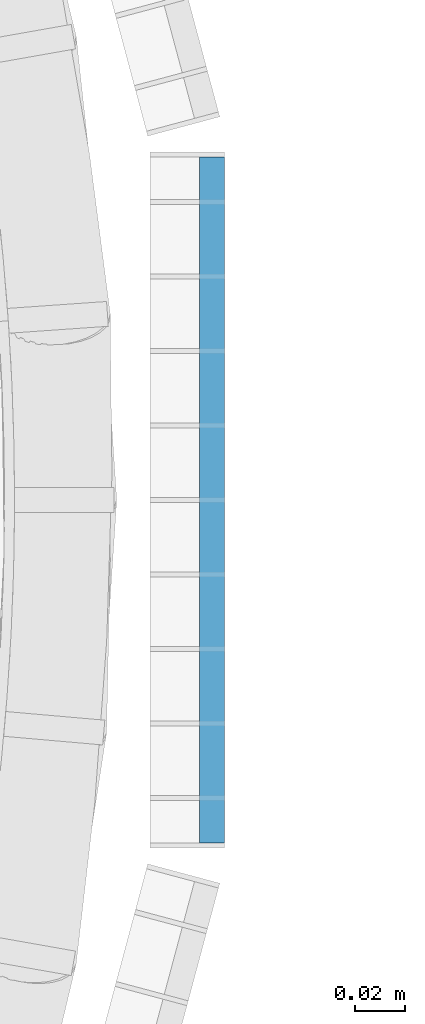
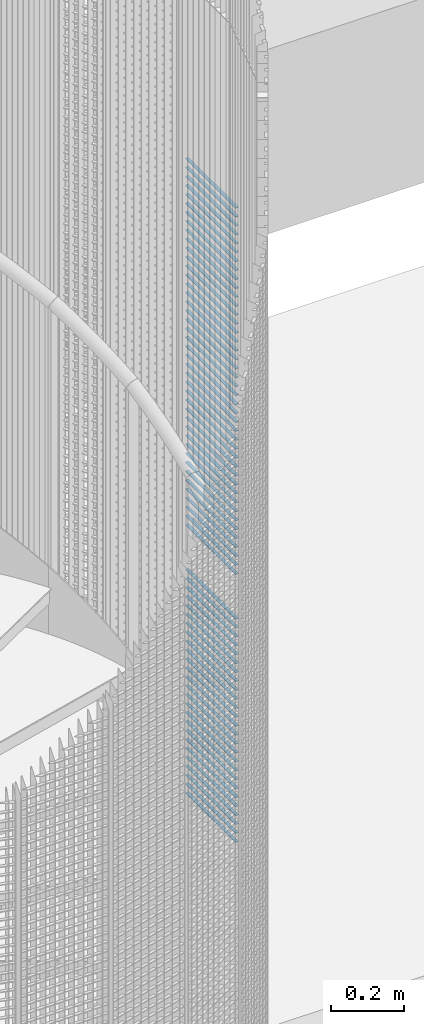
# One storey, part 278 of 1148: 68 beams, 1 element without a shape of its own.
"""IFC2X3 building model written with IfcOpenShell, lengths in millimetres."""

from ifc_helpers import new_model, si_unit, frame, origin_with_axes, origin_2d_with_axis, place, context, subcontext, project, spatial, rectangle, extrude, material, type_object, element, aggregate, save


model = new_model("IFC2X3")

# Units and contexts
model_context = context("Model", 3, precision=1e-05, world=origin_with_axes())
body_context = subcontext(model_context, "Body", "Model", "MODEL_VIEW")
ifc_project = project(units=[si_unit("LENGTHUNIT", "METRE", prefix="MILLI"), si_unit("AREAUNIT", "SQUARE_METRE"), si_unit("VOLUMEUNIT", "CUBIC_METRE"), si_unit("MASSUNIT", "GRAM", prefix="KILO"), si_unit("TIMEUNIT", "SECOND"), si_unit("PLANEANGLEUNIT", "RADIAN"), si_unit("SOLIDANGLEUNIT", "STERADIAN"), si_unit("THERMODYNAMICTEMPERATUREUNIT", "DEGREE_CELSIUS"), si_unit("LUMINOUSINTENSITYUNIT", "LUMEN")], contexts=[model_context])

# Site, building, storey
site_placement = place(None, origin_with_axes())
site = spatial("IfcSite", under=ifc_project, at=site_placement, Name="Undefined", CompositionType="ELEMENT")
building_placement = place(site_placement, origin_with_axes())
building = spatial("IfcBuilding", under=site, at=building_placement, Name="Undefined", CompositionType="ELEMENT")
storey_placement = place(building_placement, origin_with_axes())
storey = spatial("IfcBuildingStorey", under=building, at=storey_placement, Name="Undefined", CompositionType="ELEMENT", Elevation=0.0)

# Assembly, beams
assembly_placement = place(storey_placement, origin_with_axes())
assembly = element("IfcElementAssembly", 1, at=assembly_placement, inside=storey, Name="BORDURE", AssemblyPlace="NOTDEFINED", PredefinedType="NOTDEFINED")
ifc_material = material(Name="STEEL/S235JR")
beam_type = type_object("IfcBeamType", Name="PL2*10", PredefinedType="NOTDEFINED")
beam_1_placement = place(assembly_placement, frame((1113.47999999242, -137.996003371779, 11370.0), z_axis=(1.0, 0.0, 0.0), x_axis=(0.0, 1.0, 0.0)))
beam_1 = element("IfcBeam", 2, at=beam_1_placement, type_object=beam_type, material=ifc_material, Name="ENTRETOISE", context=body_context, shape_type="SweptSolid", body=[
    extrude(rectangle(XDim=2.0, YDim=10.0, at=origin_2d_with_axis()), frame((275.999999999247, 9.09494701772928e-13, 1.53210777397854e-14), z_axis=(-1.0, 0.0, 0.0), x_axis=(0.0, -1.0, 0.0)), (0.0, 0.0, 1.0), 276.0),
])
beam_2_placement = place(assembly_placement, frame((1113.47999999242, -137.996003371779, 11340.0), z_axis=(1.0, 0.0, 0.0), x_axis=(0.0, 1.0, 0.0)))
beam_2 = element("IfcBeam", 3, at=beam_2_placement, type_object=beam_type, material=ifc_material, Name="ENTRETOISE", context=body_context, shape_type="SweptSolid", body=[
    extrude(rectangle(XDim=2.0, YDim=10.0, at=origin_2d_with_axis()), frame((275.999999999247, 9.09494701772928e-13, 1.53210777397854e-14), z_axis=(-1.0, 0.0, 0.0), x_axis=(0.0, -1.0, 0.0)), (0.0, 0.0, 1.0), 276.0),
])
beam_3_placement = place(assembly_placement, frame((1113.47999999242, -137.996003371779, 11310.0), z_axis=(1.0, 0.0, 0.0), x_axis=(0.0, 1.0, 0.0)))
beam_3 = element("IfcBeam", 4, at=beam_3_placement, type_object=beam_type, material=ifc_material, Name="ENTRETOISE", context=body_context, shape_type="SweptSolid", body=[
    extrude(rectangle(XDim=2.0, YDim=10.0, at=origin_2d_with_axis()), frame((275.999999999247, 9.09494701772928e-13, 1.53210777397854e-14), z_axis=(-1.0, 0.0, 0.0), x_axis=(0.0, -1.0, 0.0)), (0.0, 0.0, 1.0), 276.0),
])
beam_4_placement = place(assembly_placement, frame((1113.47999999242, -137.996003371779, 11280.0), z_axis=(1.0, 0.0, 0.0), x_axis=(0.0, 1.0, 0.0)))
beam_4 = element("IfcBeam", 5, at=beam_4_placement, type_object=beam_type, material=ifc_material, Name="ENTRETOISE", context=body_context, shape_type="SweptSolid", body=[
    extrude(rectangle(XDim=2.0, YDim=10.0, at=origin_2d_with_axis()), frame((275.999999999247, 9.09494701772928e-13, 1.53210777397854e-14), z_axis=(-1.0, 0.0, 0.0), x_axis=(0.0, -1.0, 0.0)), (0.0, 0.0, 1.0), 276.0),
])
beam_5_placement = place(assembly_placement, frame((1113.47999999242, -137.996003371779, 11250.0), z_axis=(1.0, 0.0, 0.0), x_axis=(0.0, 1.0, 0.0)))
beam_5 = element("IfcBeam", 6, at=beam_5_placement, type_object=beam_type, material=ifc_material, Name="ENTRETOISE", context=body_context, shape_type="SweptSolid", body=[
    extrude(rectangle(XDim=2.0, YDim=10.0, at=origin_2d_with_axis()), frame((275.999999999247, 9.09494701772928e-13, 1.53210777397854e-14), z_axis=(-1.0, 0.0, 0.0), x_axis=(0.0, -1.0, 0.0)), (0.0, 0.0, 1.0), 276.0),
])
beam_6_placement = place(assembly_placement, frame((1113.47999999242, -137.996003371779, 11220.0), z_axis=(1.0, 0.0, 0.0), x_axis=(0.0, 1.0, 0.0)))
beam_6 = element("IfcBeam", 7, at=beam_6_placement, type_object=beam_type, material=ifc_material, Name="ENTRETOISE", context=body_context, shape_type="SweptSolid", body=[
    extrude(rectangle(XDim=2.0, YDim=10.0, at=origin_2d_with_axis()), frame((275.999999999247, 9.09494701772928e-13, 1.53210777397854e-14), z_axis=(-1.0, 0.0, 0.0), x_axis=(0.0, -1.0, 0.0)), (0.0, 0.0, 1.0), 276.0),
])
beam_7_placement = place(assembly_placement, frame((1113.47999999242, -137.996003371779, 11190.0), z_axis=(1.0, 0.0, 0.0), x_axis=(0.0, 1.0, 0.0)))
beam_7 = element("IfcBeam", 8, at=beam_7_placement, type_object=beam_type, material=ifc_material, Name="ENTRETOISE", context=body_context, shape_type="SweptSolid", body=[
    extrude(rectangle(XDim=2.0, YDim=10.0, at=origin_2d_with_axis()), frame((275.999999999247, 9.09494701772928e-13, 1.53210777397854e-14), z_axis=(-1.0, 0.0, 0.0), x_axis=(0.0, -1.0, 0.0)), (0.0, 0.0, 1.0), 276.0),
])
beam_8_placement = place(assembly_placement, frame((1113.47999999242, -137.996003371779, 11160.0), z_axis=(1.0, 0.0, 0.0), x_axis=(0.0, 1.0, 0.0)))
beam_8 = element("IfcBeam", 9, at=beam_8_placement, type_object=beam_type, material=ifc_material, Name="ENTRETOISE", context=body_context, shape_type="SweptSolid", body=[
    extrude(rectangle(XDim=2.0, YDim=10.0, at=origin_2d_with_axis()), frame((275.999999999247, 9.09494701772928e-13, 1.53210777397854e-14), z_axis=(-1.0, 0.0, 0.0), x_axis=(0.0, -1.0, 0.0)), (0.0, 0.0, 1.0), 276.0),
])
beam_9_placement = place(assembly_placement, frame((1113.47999999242, -137.996003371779, 11130.0), z_axis=(1.0, 0.0, 0.0), x_axis=(0.0, 1.0, 0.0)))
beam_9 = element("IfcBeam", 10, at=beam_9_placement, type_object=beam_type, material=ifc_material, Name="ENTRETOISE", context=body_context, shape_type="SweptSolid", body=[
    extrude(rectangle(XDim=2.0, YDim=10.0, at=origin_2d_with_axis()), frame((275.999999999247, 9.09494701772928e-13, 1.53210777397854e-14), z_axis=(-1.0, 0.0, 0.0), x_axis=(0.0, -1.0, 0.0)), (0.0, 0.0, 1.0), 276.0),
])
beam_10_placement = place(assembly_placement, frame((1113.47999999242, -137.996003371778, 11100.0), z_axis=(1.0, 0.0, 0.0), x_axis=(0.0, 1.0, 0.0)))
beam_10 = element("IfcBeam", 11, at=beam_10_placement, type_object=beam_type, material=ifc_material, Name="ENTRETOISE", context=body_context, shape_type="SweptSolid", body=[
    extrude(rectangle(XDim=2.0, YDim=10.0, at=origin_2d_with_axis()), frame((275.999999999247, 9.09494701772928e-13, 1.53210777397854e-14), z_axis=(-1.0, 0.0, 0.0), x_axis=(0.0, -1.0, 0.0)), (0.0, 0.0, 1.0), 276.0),
])
beam_11_placement = place(assembly_placement, frame((1113.47999999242, -137.996003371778, 11070.0), z_axis=(1.0, 0.0, 0.0), x_axis=(0.0, 1.0, 0.0)))
beam_11 = element("IfcBeam", 12, at=beam_11_placement, type_object=beam_type, material=ifc_material, Name="ENTRETOISE", context=body_context, shape_type="SweptSolid", body=[
    extrude(rectangle(XDim=2.0, YDim=10.0, at=origin_2d_with_axis()), frame((275.999999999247, 9.09494701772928e-13, 1.53210777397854e-14), z_axis=(-1.0, 0.0, 0.0), x_axis=(0.0, -1.0, 0.0)), (0.0, 0.0, 1.0), 276.0),
])
beam_12_placement = place(assembly_placement, frame((1113.47999999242, -137.996003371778, 11040.0), z_axis=(1.0, 0.0, 0.0), x_axis=(0.0, 1.0, 0.0)))
beam_12 = element("IfcBeam", 13, at=beam_12_placement, type_object=beam_type, material=ifc_material, Name="ENTRETOISE", context=body_context, shape_type="SweptSolid", body=[
    extrude(rectangle(XDim=2.0, YDim=10.0, at=origin_2d_with_axis()), frame((275.999999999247, 9.09494701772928e-13, 1.53210777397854e-14), z_axis=(-1.0, 0.0, 0.0), x_axis=(0.0, -1.0, 0.0)), (0.0, 0.0, 1.0), 276.0),
])
beam_13_placement = place(assembly_placement, frame((1113.47999999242, -137.996003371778, 11010.0), z_axis=(1.0, 0.0, 0.0), x_axis=(0.0, 1.0, 0.0)))
beam_13 = element("IfcBeam", 14, at=beam_13_placement, type_object=beam_type, material=ifc_material, Name="ENTRETOISE", context=body_context, shape_type="SweptSolid", body=[
    extrude(rectangle(XDim=2.0, YDim=10.0, at=origin_2d_with_axis()), frame((275.999999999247, 9.09494701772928e-13, 1.53210777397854e-14), z_axis=(-1.0, 0.0, 0.0), x_axis=(0.0, -1.0, 0.0)), (0.0, 0.0, 1.0), 276.0),
])
beam_14_placement = place(assembly_placement, frame((1113.47999999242, -137.996003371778, 10980.0), z_axis=(1.0, 0.0, 0.0), x_axis=(0.0, 1.0, 0.0)))
beam_14 = element("IfcBeam", 15, at=beam_14_placement, type_object=beam_type, material=ifc_material, Name="ENTRETOISE", context=body_context, shape_type="SweptSolid", body=[
    extrude(rectangle(XDim=2.0, YDim=10.0, at=origin_2d_with_axis()), frame((275.999999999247, 9.09494701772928e-13, 1.53210777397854e-14), z_axis=(-1.0, 0.0, 0.0), x_axis=(0.0, -1.0, 0.0)), (0.0, 0.0, 1.0), 276.0),
])
beam_15_placement = place(assembly_placement, frame((1113.47999999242, -137.996003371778, 10950.0), z_axis=(1.0, 0.0, 0.0), x_axis=(0.0, 1.0, 0.0)))
beam_15 = element("IfcBeam", 16, at=beam_15_placement, type_object=beam_type, material=ifc_material, Name="ENTRETOISE", context=body_context, shape_type="SweptSolid", body=[
    extrude(rectangle(XDim=2.0, YDim=10.0, at=origin_2d_with_axis()), frame((275.999999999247, 9.09494701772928e-13, 1.53210777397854e-14), z_axis=(-1.0, 0.0, 0.0), x_axis=(0.0, -1.0, 0.0)), (0.0, 0.0, 1.0), 276.0),
])
beam_16_placement = place(assembly_placement, frame((1113.47999999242, -137.996003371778, 10920.0), z_axis=(1.0, 0.0, 0.0), x_axis=(0.0, 1.0, 0.0)))
beam_16 = element("IfcBeam", 17, at=beam_16_placement, type_object=beam_type, material=ifc_material, Name="ENTRETOISE", context=body_context, shape_type="SweptSolid", body=[
    extrude(rectangle(XDim=2.0, YDim=10.0, at=origin_2d_with_axis()), frame((275.999999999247, 9.09494701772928e-13, 1.53210777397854e-14), z_axis=(-1.0, 0.0, 0.0), x_axis=(0.0, -1.0, 0.0)), (0.0, 0.0, 1.0), 276.0),
])
beam_17_placement = place(assembly_placement, frame((1113.47999999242, -137.996003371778, 10890.0), z_axis=(1.0, 0.0, 0.0), x_axis=(0.0, 1.0, 0.0)))
beam_17 = element("IfcBeam", 18, at=beam_17_placement, type_object=beam_type, material=ifc_material, Name="ENTRETOISE", context=body_context, shape_type="SweptSolid", body=[
    extrude(rectangle(XDim=2.0, YDim=10.0, at=origin_2d_with_axis()), frame((275.999999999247, 9.09494701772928e-13, 1.53210777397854e-14), z_axis=(-1.0, 0.0, 0.0), x_axis=(0.0, -1.0, 0.0)), (0.0, 0.0, 1.0), 276.0),
])
beam_18_placement = place(assembly_placement, frame((1113.47999999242, -137.996003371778, 10860.0), z_axis=(1.0, 0.0, 0.0), x_axis=(0.0, 1.0, 0.0)))
beam_18 = element("IfcBeam", 19, at=beam_18_placement, type_object=beam_type, material=ifc_material, Name="ENTRETOISE", context=body_context, shape_type="SweptSolid", body=[
    extrude(rectangle(XDim=2.0, YDim=10.0, at=origin_2d_with_axis()), frame((275.999999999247, 9.09494701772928e-13, 1.53210777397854e-14), z_axis=(-1.0, 0.0, 0.0), x_axis=(0.0, -1.0, 0.0)), (0.0, 0.0, 1.0), 276.0),
])
beam_19_placement = place(assembly_placement, frame((1113.47999999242, -137.996003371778, 10830.0), z_axis=(1.0, 0.0, 0.0), x_axis=(0.0, 1.0, 0.0)))
beam_19 = element("IfcBeam", 20, at=beam_19_placement, type_object=beam_type, material=ifc_material, Name="ENTRETOISE", context=body_context, shape_type="SweptSolid", body=[
    extrude(rectangle(XDim=2.0, YDim=10.0, at=origin_2d_with_axis()), frame((275.999999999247, 9.09494701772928e-13, 1.53210777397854e-14), z_axis=(-1.0, 0.0, 0.0), x_axis=(0.0, -1.0, 0.0)), (0.0, 0.0, 1.0), 276.0),
])
beam_20_placement = place(assembly_placement, frame((1113.47999999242, -137.996003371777, 10800.0), z_axis=(1.0, 0.0, 0.0), x_axis=(0.0, 1.0, 0.0)))
beam_20 = element("IfcBeam", 21, at=beam_20_placement, type_object=beam_type, material=ifc_material, Name="ENTRETOISE", context=body_context, shape_type="SweptSolid", body=[
    extrude(rectangle(XDim=2.0, YDim=10.0, at=origin_2d_with_axis()), frame((275.999999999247, 9.09494701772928e-13, 1.53210777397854e-14), z_axis=(-1.0, 0.0, 0.0), x_axis=(0.0, -1.0, 0.0)), (0.0, 0.0, 1.0), 276.0),
])
beam_21_placement = place(assembly_placement, frame((1113.47999999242, -137.996003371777, 10770.0), z_axis=(1.0, 0.0, 0.0), x_axis=(0.0, 1.0, 0.0)))
beam_21 = element("IfcBeam", 22, at=beam_21_placement, type_object=beam_type, material=ifc_material, Name="ENTRETOISE", context=body_context, shape_type="SweptSolid", body=[
    extrude(rectangle(XDim=2.0, YDim=10.0, at=origin_2d_with_axis()), frame((275.999999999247, 9.09494701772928e-13, 1.53210777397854e-14), z_axis=(-1.0, 0.0, 0.0), x_axis=(0.0, -1.0, 0.0)), (0.0, 0.0, 1.0), 276.0),
])
beam_22_placement = place(assembly_placement, frame((1113.47999999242, -137.996003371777, 10740.0), z_axis=(1.0, 0.0, 0.0), x_axis=(0.0, 1.0, 0.0)))
beam_22 = element("IfcBeam", 23, at=beam_22_placement, type_object=beam_type, material=ifc_material, Name="ENTRETOISE", context=body_context, shape_type="SweptSolid", body=[
    extrude(rectangle(XDim=2.0, YDim=10.0, at=origin_2d_with_axis()), frame((275.999999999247, 9.09494701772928e-13, 1.53210777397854e-14), z_axis=(-1.0, 0.0, 0.0), x_axis=(0.0, -1.0, 0.0)), (0.0, 0.0, 1.0), 276.0),
])
beam_23_placement = place(assembly_placement, frame((1113.47999999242, -137.996003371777, 10710.0), z_axis=(1.0, 0.0, 0.0), x_axis=(0.0, 1.0, 0.0)))
beam_23 = element("IfcBeam", 24, at=beam_23_placement, type_object=beam_type, material=ifc_material, Name="ENTRETOISE", context=body_context, shape_type="SweptSolid", body=[
    extrude(rectangle(XDim=2.0, YDim=10.0, at=origin_2d_with_axis()), frame((275.999999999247, 9.09494701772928e-13, 1.53210777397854e-14), z_axis=(-1.0, 0.0, 0.0), x_axis=(0.0, -1.0, 0.0)), (0.0, 0.0, 1.0), 276.0),
])
beam_24_placement = place(assembly_placement, frame((1113.47999999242, -137.996003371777, 10680.0), z_axis=(1.0, 0.0, 0.0), x_axis=(0.0, 1.0, 0.0)))
beam_24 = element("IfcBeam", 25, at=beam_24_placement, type_object=beam_type, material=ifc_material, Name="ENTRETOISE", context=body_context, shape_type="SweptSolid", body=[
    extrude(rectangle(XDim=2.0, YDim=10.0, at=origin_2d_with_axis()), frame((275.999999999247, 9.09494701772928e-13, 1.53210777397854e-14), z_axis=(-1.0, 0.0, 0.0), x_axis=(0.0, -1.0, 0.0)), (0.0, 0.0, 1.0), 276.0),
])
beam_25_placement = place(assembly_placement, frame((1113.47999999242, -137.996003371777, 10650.0), z_axis=(1.0, 0.0, 0.0), x_axis=(0.0, 1.0, 0.0)))
beam_25 = element("IfcBeam", 26, at=beam_25_placement, type_object=beam_type, material=ifc_material, Name="ENTRETOISE", context=body_context, shape_type="SweptSolid", body=[
    extrude(rectangle(XDim=2.0, YDim=10.0, at=origin_2d_with_axis()), frame((275.999999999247, 9.09494701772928e-13, 1.53210777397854e-14), z_axis=(-1.0, 0.0, 0.0), x_axis=(0.0, -1.0, 0.0)), (0.0, 0.0, 1.0), 276.0),
])
beam_26_placement = place(assembly_placement, frame((1113.47999999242, -137.996003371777, 10620.0), z_axis=(1.0, 0.0, 0.0), x_axis=(0.0, 1.0, 0.0)))
beam_26 = element("IfcBeam", 27, at=beam_26_placement, type_object=beam_type, material=ifc_material, Name="ENTRETOISE", context=body_context, shape_type="SweptSolid", body=[
    extrude(rectangle(XDim=2.0, YDim=10.0, at=origin_2d_with_axis()), frame((275.999999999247, 9.09494701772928e-13, 1.53210777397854e-14), z_axis=(-1.0, 0.0, 0.0), x_axis=(0.0, -1.0, 0.0)), (0.0, 0.0, 1.0), 276.0),
])
beam_27_placement = place(assembly_placement, frame((1113.47999999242, -137.996003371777, 10590.0), z_axis=(1.0, 0.0, 0.0), x_axis=(0.0, 1.0, 0.0)))
beam_27 = element("IfcBeam", 28, at=beam_27_placement, type_object=beam_type, material=ifc_material, Name="ENTRETOISE", context=body_context, shape_type="SweptSolid", body=[
    extrude(rectangle(XDim=2.0, YDim=10.0, at=origin_2d_with_axis()), frame((275.999999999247, 9.09494701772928e-13, 1.53210777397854e-14), z_axis=(-1.0, 0.0, 0.0), x_axis=(0.0, -1.0, 0.0)), (0.0, 0.0, 1.0), 276.0),
])
beam_28_placement = place(assembly_placement, frame((1113.47999999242, -137.996003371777, 10560.0), z_axis=(1.0, 0.0, 0.0), x_axis=(0.0, 1.0, 0.0)))
beam_28 = element("IfcBeam", 29, at=beam_28_placement, type_object=beam_type, material=ifc_material, Name="ENTRETOISE", context=body_context, shape_type="SweptSolid", body=[
    extrude(rectangle(XDim=2.0, YDim=10.0, at=origin_2d_with_axis()), frame((275.999999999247, 9.09494701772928e-13, 1.53210777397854e-14), z_axis=(-1.0, 0.0, 0.0), x_axis=(0.0, -1.0, 0.0)), (0.0, 0.0, 1.0), 276.0),
])
beam_29_placement = place(assembly_placement, frame((1113.47999999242, -137.996003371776, 10530.0), z_axis=(1.0, 0.0, 0.0), x_axis=(0.0, 1.0, 0.0)))
beam_29 = element("IfcBeam", 30, at=beam_29_placement, type_object=beam_type, material=ifc_material, Name="ENTRETOISE", context=body_context, shape_type="SweptSolid", body=[
    extrude(rectangle(XDim=2.0, YDim=10.0, at=origin_2d_with_axis()), frame((275.999999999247, 9.09494701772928e-13, 1.53210777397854e-14), z_axis=(-1.0, 0.0, 0.0), x_axis=(0.0, -1.0, 0.0)), (0.0, 0.0, 1.0), 276.0),
])
beam_30_placement = place(assembly_placement, frame((1113.47999999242, -137.996003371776, 10500.0), z_axis=(1.0, 0.0, 0.0), x_axis=(0.0, 1.0, 0.0)))
beam_30 = element("IfcBeam", 31, at=beam_30_placement, type_object=beam_type, material=ifc_material, Name="ENTRETOISE", context=body_context, shape_type="SweptSolid", body=[
    extrude(rectangle(XDim=2.0, YDim=10.0, at=origin_2d_with_axis()), frame((275.999999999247, 9.09494701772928e-13, 1.53210777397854e-14), z_axis=(-1.0, 0.0, 0.0), x_axis=(0.0, -1.0, 0.0)), (0.0, 0.0, 1.0), 276.0),
])
beam_31_placement = place(assembly_placement, frame((1113.47999999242, -137.996003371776, 10470.0), z_axis=(1.0, 0.0, 0.0), x_axis=(0.0, 1.0, 0.0)))
beam_31 = element("IfcBeam", 32, at=beam_31_placement, type_object=beam_type, material=ifc_material, Name="ENTRETOISE", context=body_context, shape_type="SweptSolid", body=[
    extrude(rectangle(XDim=2.0, YDim=10.0, at=origin_2d_with_axis()), frame((275.999999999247, 9.09494701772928e-13, 1.53210777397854e-14), z_axis=(-1.0, 0.0, 0.0), x_axis=(0.0, -1.0, 0.0)), (0.0, 0.0, 1.0), 276.0),
])
beam_32_placement = place(assembly_placement, frame((1113.47999999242, -137.996003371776, 10440.0), z_axis=(1.0, 0.0, 0.0), x_axis=(0.0, 1.0, 0.0)))
beam_32 = element("IfcBeam", 33, at=beam_32_placement, type_object=beam_type, material=ifc_material, Name="ENTRETOISE", context=body_context, shape_type="SweptSolid", body=[
    extrude(rectangle(XDim=2.0, YDim=10.0, at=origin_2d_with_axis()), frame((275.999999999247, 9.09494701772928e-13, 1.53210777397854e-14), z_axis=(-1.0, 0.0, 0.0), x_axis=(0.0, -1.0, 0.0)), (0.0, 0.0, 1.0), 276.0),
])
beam_33_placement = place(assembly_placement, frame((1113.47999999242, -137.996003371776, 10410.0), z_axis=(1.0, 0.0, 0.0), x_axis=(0.0, 1.0, 0.0)))
beam_33 = element("IfcBeam", 34, at=beam_33_placement, type_object=beam_type, material=ifc_material, Name="ENTRETOISE", context=body_context, shape_type="SweptSolid", body=[
    extrude(rectangle(XDim=2.0, YDim=10.0, at=origin_2d_with_axis()), frame((275.999999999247, 9.09494701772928e-13, 1.53210777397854e-14), z_axis=(-1.0, 0.0, 0.0), x_axis=(0.0, -1.0, 0.0)), (0.0, 0.0, 1.0), 276.0),
])
beam_34_placement = place(assembly_placement, frame((1113.47999999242, -137.996003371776, 10380.0), z_axis=(1.0, 0.0, 0.0), x_axis=(0.0, 1.0, 0.0)))
beam_34 = element("IfcBeam", 35, at=beam_34_placement, type_object=beam_type, material=ifc_material, Name="ENTRETOISE", context=body_context, shape_type="SweptSolid", body=[
    extrude(rectangle(XDim=2.0, YDim=10.0, at=origin_2d_with_axis()), frame((275.999999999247, 9.09494701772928e-13, 1.53210777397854e-14), z_axis=(-1.0, 0.0, 0.0), x_axis=(0.0, -1.0, 0.0)), (0.0, 0.0, 1.0), 276.0),
])
beam_35_placement = place(assembly_placement, frame((1113.47999999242, -137.996003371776, 10350.0), z_axis=(1.0, 0.0, 0.0), x_axis=(0.0, 1.0, 0.0)))
beam_35 = element("IfcBeam", 36, at=beam_35_placement, type_object=beam_type, material=ifc_material, Name="ENTRETOISE", context=body_context, shape_type="SweptSolid", body=[
    extrude(rectangle(XDim=2.0, YDim=10.0, at=origin_2d_with_axis()), frame((275.999999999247, 9.09494701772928e-13, 1.53210777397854e-14), z_axis=(-1.0, 0.0, 0.0), x_axis=(0.0, -1.0, 0.0)), (0.0, 0.0, 1.0), 276.0),
])
beam_36_placement = place(assembly_placement, frame((1113.47999999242, -137.996003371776, 10320.0), z_axis=(1.0, 0.0, 0.0), x_axis=(0.0, 1.0, 0.0)))
beam_36 = element("IfcBeam", 37, at=beam_36_placement, type_object=beam_type, material=ifc_material, Name="ENTRETOISE", context=body_context, shape_type="SweptSolid", body=[
    extrude(rectangle(XDim=2.0, YDim=10.0, at=origin_2d_with_axis()), frame((275.999999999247, 9.09494701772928e-13, 1.53210777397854e-14), z_axis=(-1.0, 0.0, 0.0), x_axis=(0.0, -1.0, 0.0)), (0.0, 0.0, 1.0), 276.0),
])
beam_37_placement = place(assembly_placement, frame((1113.47999999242, -137.996003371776, 10290.0), z_axis=(1.0, 0.0, 0.0), x_axis=(0.0, 1.0, 0.0)))
beam_37 = element("IfcBeam", 38, at=beam_37_placement, type_object=beam_type, material=ifc_material, Name="ENTRETOISE", context=body_context, shape_type="SweptSolid", body=[
    extrude(rectangle(XDim=2.0, YDim=10.0, at=origin_2d_with_axis()), frame((275.999999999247, 9.09494701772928e-13, 1.53210777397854e-14), z_axis=(-1.0, 0.0, 0.0), x_axis=(0.0, -1.0, 0.0)), (0.0, 0.0, 1.0), 276.0),
])
beam_38_placement = place(assembly_placement, frame((1113.47999999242, -137.996003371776, 10260.0), z_axis=(1.0, 0.0, 0.0), x_axis=(0.0, 1.0, 0.0)))
beam_38 = element("IfcBeam", 39, at=beam_38_placement, type_object=beam_type, material=ifc_material, Name="ENTRETOISE", context=body_context, shape_type="SweptSolid", body=[
    extrude(rectangle(XDim=2.0, YDim=10.0, at=origin_2d_with_axis()), frame((275.999999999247, 9.09494701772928e-13, 1.53210777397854e-14), z_axis=(-1.0, 0.0, 0.0), x_axis=(0.0, -1.0, 0.0)), (0.0, 0.0, 1.0), 276.0),
])
beam_39_placement = place(assembly_placement, frame((1113.47999999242, -137.996003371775, 10230.0), z_axis=(1.0, 0.0, 0.0), x_axis=(0.0, 1.0, 0.0)))
beam_39 = element("IfcBeam", 40, at=beam_39_placement, type_object=beam_type, material=ifc_material, Name="ENTRETOISE", context=body_context, shape_type="SweptSolid", body=[
    extrude(rectangle(XDim=2.0, YDim=10.0, at=origin_2d_with_axis()), frame((275.999999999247, 9.09494701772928e-13, 1.53210777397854e-14), z_axis=(-1.0, 0.0, 0.0), x_axis=(0.0, -1.0, 0.0)), (0.0, 0.0, 1.0), 276.0),
])
beam_40_placement = place(assembly_placement, frame((1113.47999999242, -137.996003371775, 10200.0), z_axis=(1.0, 0.0, 0.0), x_axis=(0.0, 1.0, 0.0)))
beam_40 = element("IfcBeam", 41, at=beam_40_placement, type_object=beam_type, material=ifc_material, Name="ENTRETOISE", context=body_context, shape_type="SweptSolid", body=[
    extrude(rectangle(XDim=2.0, YDim=10.0, at=origin_2d_with_axis()), frame((275.999999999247, 9.09494701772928e-13, 1.53210777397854e-14), z_axis=(-1.0, 0.0, 0.0), x_axis=(0.0, -1.0, 0.0)), (0.0, 0.0, 1.0), 276.0),
])
beam_41_placement = place(assembly_placement, frame((1113.47999999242, -137.996003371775, 10170.0), z_axis=(1.0, 0.0, 0.0), x_axis=(0.0, 1.0, 0.0)))
beam_41 = element("IfcBeam", 42, at=beam_41_placement, type_object=beam_type, material=ifc_material, Name="ENTRETOISE", context=body_context, shape_type="SweptSolid", body=[
    extrude(rectangle(XDim=2.0, YDim=10.0, at=origin_2d_with_axis()), frame((275.999999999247, 9.09494701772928e-13, 1.53210777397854e-14), z_axis=(-1.0, 0.0, 0.0), x_axis=(0.0, -1.0, 0.0)), (0.0, 0.0, 1.0), 276.0),
])
beam_42_placement = place(assembly_placement, frame((1113.47999999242, -137.996003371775, 10140.0), z_axis=(1.0, 0.0, 0.0), x_axis=(0.0, 1.0, 0.0)))
beam_42 = element("IfcBeam", 43, at=beam_42_placement, type_object=beam_type, material=ifc_material, Name="ENTRETOISE", context=body_context, shape_type="SweptSolid", body=[
    extrude(rectangle(XDim=2.0, YDim=10.0, at=origin_2d_with_axis()), frame((275.999999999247, 9.09494701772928e-13, 1.53210777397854e-14), z_axis=(-1.0, 0.0, 0.0), x_axis=(0.0, -1.0, 0.0)), (0.0, 0.0, 1.0), 276.0),
])
beam_43_placement = place(assembly_placement, frame((1113.47999999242, -137.996003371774, 9720.0), z_axis=(1.0, 0.0, 0.0), x_axis=(0.0, 1.0, 0.0)))
beam_43 = element("IfcBeam", 44, at=beam_43_placement, type_object=beam_type, material=ifc_material, Name="ENTRETOISE", context=body_context, shape_type="SweptSolid", body=[
    extrude(rectangle(XDim=2.0, YDim=10.0, at=origin_2d_with_axis()), frame((275.999999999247, 9.09494701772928e-13, 1.53210777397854e-14), z_axis=(-1.0, 0.0, 0.0), x_axis=(0.0, -1.0, 0.0)), (0.0, 0.0, 1.0), 276.0),
])
beam_44_placement = place(assembly_placement, frame((1113.47999999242, -137.996003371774, 9690.0), z_axis=(1.0, 0.0, 0.0), x_axis=(0.0, 1.0, 0.0)))
beam_44 = element("IfcBeam", 45, at=beam_44_placement, type_object=beam_type, material=ifc_material, Name="ENTRETOISE", context=body_context, shape_type="SweptSolid", body=[
    extrude(rectangle(XDim=2.0, YDim=10.0, at=origin_2d_with_axis()), frame((275.999999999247, 9.09494701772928e-13, 1.53210777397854e-14), z_axis=(-1.0, 0.0, 0.0), x_axis=(0.0, -1.0, 0.0)), (0.0, 0.0, 1.0), 276.0),
])
beam_45_placement = place(assembly_placement, frame((1113.47999999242, -137.996003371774, 9750.0), z_axis=(1.0, 0.0, 0.0), x_axis=(0.0, 1.0, 0.0)))
beam_45 = element("IfcBeam", 46, at=beam_45_placement, type_object=beam_type, material=ifc_material, Name="ENTRETOISE", context=body_context, shape_type="SweptSolid", body=[
    extrude(rectangle(XDim=2.0, YDim=10.0, at=origin_2d_with_axis()), frame((275.999999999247, 9.09494701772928e-13, 1.53210777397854e-14), z_axis=(-1.0, 0.0, 0.0), x_axis=(0.0, -1.0, 0.0)), (0.0, 0.0, 1.0), 276.0),
])
beam_46_placement = place(assembly_placement, frame((1113.47999999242, -137.996003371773, 9660.0), z_axis=(1.0, 0.0, 0.0), x_axis=(0.0, 1.0, 0.0)))
beam_46 = element("IfcBeam", 47, at=beam_46_placement, type_object=beam_type, material=ifc_material, Name="ENTRETOISE", context=body_context, shape_type="SweptSolid", body=[
    extrude(rectangle(XDim=2.0, YDim=10.0, at=origin_2d_with_axis()), frame((275.999999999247, 9.09494701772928e-13, 1.53210777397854e-14), z_axis=(-1.0, 0.0, 0.0), x_axis=(0.0, -1.0, 0.0)), (0.0, 0.0, 1.0), 276.0),
])
beam_47_placement = place(assembly_placement, frame((1113.47999999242, -137.996003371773, 9630.0), z_axis=(1.0, 0.0, 0.0), x_axis=(0.0, 1.0, 0.0)))
beam_47 = element("IfcBeam", 48, at=beam_47_placement, type_object=beam_type, material=ifc_material, Name="ENTRETOISE", context=body_context, shape_type="SweptSolid", body=[
    extrude(rectangle(XDim=2.0, YDim=10.0, at=origin_2d_with_axis()), frame((275.999999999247, 9.09494701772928e-13, 1.53210777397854e-14), z_axis=(-1.0, 0.0, 0.0), x_axis=(0.0, -1.0, 0.0)), (0.0, 0.0, 1.0), 276.0),
])
beam_48_placement = place(assembly_placement, frame((1113.47999999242, -137.996003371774, 9780.0), z_axis=(1.0, 0.0, 0.0), x_axis=(0.0, 1.0, 0.0)))
beam_48 = element("IfcBeam", 49, at=beam_48_placement, type_object=beam_type, material=ifc_material, Name="ENTRETOISE", context=body_context, shape_type="SweptSolid", body=[
    extrude(rectangle(XDim=2.0, YDim=10.0, at=origin_2d_with_axis()), frame((275.999999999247, 9.09494701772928e-13, 1.53210777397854e-14), z_axis=(-1.0, 0.0, 0.0), x_axis=(0.0, -1.0, 0.0)), (0.0, 0.0, 1.0), 276.0),
])
beam_49_placement = place(assembly_placement, frame((1113.47999999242, -137.996003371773, 9600.0), z_axis=(1.0, 0.0, 0.0), x_axis=(0.0, 1.0, 0.0)))
beam_49 = element("IfcBeam", 50, at=beam_49_placement, type_object=beam_type, material=ifc_material, Name="ENTRETOISE", context=body_context, shape_type="SweptSolid", body=[
    extrude(rectangle(XDim=2.0, YDim=10.0, at=origin_2d_with_axis()), frame((275.999999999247, 9.09494701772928e-13, 1.53210777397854e-14), z_axis=(-1.0, 0.0, 0.0), x_axis=(0.0, -1.0, 0.0)), (0.0, 0.0, 1.0), 276.0),
])
beam_50_placement = place(assembly_placement, frame((1113.47999999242, -137.996003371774, 9810.0), z_axis=(1.0, 0.0, 0.0), x_axis=(0.0, 1.0, 0.0)))
beam_50 = element("IfcBeam", 51, at=beam_50_placement, type_object=beam_type, material=ifc_material, Name="ENTRETOISE", context=body_context, shape_type="SweptSolid", body=[
    extrude(rectangle(XDim=2.0, YDim=10.0, at=origin_2d_with_axis()), frame((275.999999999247, 9.09494701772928e-13, 1.53210777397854e-14), z_axis=(-1.0, 0.0, 0.0), x_axis=(0.0, -1.0, 0.0)), (0.0, 0.0, 1.0), 276.0),
])
beam_51_placement = place(assembly_placement, frame((1113.47999999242, -137.996003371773, 9570.0), z_axis=(1.0, 0.0, 0.0), x_axis=(0.0, 1.0, 0.0)))
beam_51 = element("IfcBeam", 52, at=beam_51_placement, type_object=beam_type, material=ifc_material, Name="ENTRETOISE", context=body_context, shape_type="SweptSolid", body=[
    extrude(rectangle(XDim=2.0, YDim=10.0, at=origin_2d_with_axis()), frame((275.999999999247, 9.09494701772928e-13, 1.53210777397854e-14), z_axis=(-1.0, 0.0, 0.0), x_axis=(0.0, -1.0, 0.0)), (0.0, 0.0, 1.0), 276.0),
])
beam_52_placement = place(assembly_placement, frame((1113.47999999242, -137.996003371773, 9540.0), z_axis=(1.0, 0.0, 0.0), x_axis=(0.0, 1.0, 0.0)))
beam_52 = element("IfcBeam", 53, at=beam_52_placement, type_object=beam_type, material=ifc_material, Name="ENTRETOISE", context=body_context, shape_type="SweptSolid", body=[
    extrude(rectangle(XDim=2.0, YDim=10.0, at=origin_2d_with_axis()), frame((275.999999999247, 9.09494701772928e-13, 1.53210777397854e-14), z_axis=(-1.0, 0.0, 0.0), x_axis=(0.0, -1.0, 0.0)), (0.0, 0.0, 1.0), 276.0),
])
beam_53_placement = place(assembly_placement, frame((1113.47999999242, -137.996003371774, 9840.0), z_axis=(1.0, 0.0, 0.0), x_axis=(0.0, 1.0, 0.0)))
beam_53 = element("IfcBeam", 54, at=beam_53_placement, type_object=beam_type, material=ifc_material, Name="ENTRETOISE", context=body_context, shape_type="SweptSolid", body=[
    extrude(rectangle(XDim=2.0, YDim=10.0, at=origin_2d_with_axis()), frame((275.999999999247, 9.09494701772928e-13, 1.53210777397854e-14), z_axis=(-1.0, 0.0, 0.0), x_axis=(0.0, -1.0, 0.0)), (0.0, 0.0, 1.0), 276.0),
])
beam_54_placement = place(assembly_placement, frame((1113.47999999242, -137.996003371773, 9510.0), z_axis=(1.0, 0.0, 0.0), x_axis=(0.0, 1.0, 0.0)))
beam_54 = element("IfcBeam", 55, at=beam_54_placement, type_object=beam_type, material=ifc_material, Name="ENTRETOISE", context=body_context, shape_type="SweptSolid", body=[
    extrude(rectangle(XDim=2.0, YDim=10.0, at=origin_2d_with_axis()), frame((275.999999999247, 9.09494701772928e-13, 1.53210777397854e-14), z_axis=(-1.0, 0.0, 0.0), x_axis=(0.0, -1.0, 0.0)), (0.0, 0.0, 1.0), 276.0),
])
beam_55_placement = place(assembly_placement, frame((1113.47999999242, -137.996003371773, 9480.0), z_axis=(1.0, 0.0, 0.0), x_axis=(0.0, 1.0, 0.0)))
beam_55 = element("IfcBeam", 56, at=beam_55_placement, type_object=beam_type, material=ifc_material, Name="ENTRETOISE", context=body_context, shape_type="SweptSolid", body=[
    extrude(rectangle(XDim=2.0, YDim=10.0, at=origin_2d_with_axis()), frame((275.999999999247, 9.09494701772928e-13, 1.53210777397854e-14), z_axis=(-1.0, 0.0, 0.0), x_axis=(0.0, -1.0, 0.0)), (0.0, 0.0, 1.0), 276.0),
])
beam_56_placement = place(assembly_placement, frame((1113.47999999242, -137.996003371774, 9870.0), z_axis=(1.0, 0.0, 0.0), x_axis=(0.0, 1.0, 0.0)))
beam_56 = element("IfcBeam", 57, at=beam_56_placement, type_object=beam_type, material=ifc_material, Name="ENTRETOISE", context=body_context, shape_type="SweptSolid", body=[
    extrude(rectangle(XDim=2.0, YDim=10.0, at=origin_2d_with_axis()), frame((275.999999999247, 9.09494701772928e-13, 1.53210777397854e-14), z_axis=(-1.0, 0.0, 0.0), x_axis=(0.0, -1.0, 0.0)), (0.0, 0.0, 1.0), 276.0),
])
beam_57_placement = place(assembly_placement, frame((1113.47999999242, -137.996003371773, 9450.0), z_axis=(1.0, 0.0, 0.0), x_axis=(0.0, 1.0, 0.0)))
beam_57 = element("IfcBeam", 58, at=beam_57_placement, type_object=beam_type, material=ifc_material, Name="ENTRETOISE", context=body_context, shape_type="SweptSolid", body=[
    extrude(rectangle(XDim=2.0, YDim=10.0, at=origin_2d_with_axis()), frame((275.999999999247, 9.09494701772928e-13, 1.53210777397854e-14), z_axis=(-1.0, 0.0, 0.0), x_axis=(0.0, -1.0, 0.0)), (0.0, 0.0, 1.0), 276.0),
])
beam_58_placement = place(assembly_placement, frame((1113.47999999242, -137.996003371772, 9420.0), z_axis=(1.0, 0.0, 0.0), x_axis=(0.0, 1.0, 0.0)))
beam_58 = element("IfcBeam", 59, at=beam_58_placement, type_object=beam_type, material=ifc_material, Name="ENTRETOISE", context=body_context, shape_type="SweptSolid", body=[
    extrude(rectangle(XDim=2.0, YDim=10.0, at=origin_2d_with_axis()), frame((275.999999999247, 9.09494701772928e-13, 1.53210777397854e-14), z_axis=(-1.0, 0.0, 0.0), x_axis=(0.0, -1.0, 0.0)), (0.0, 0.0, 1.0), 276.0),
])
beam_59_placement = place(assembly_placement, frame((1113.47999999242, -137.996003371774, 9900.0), z_axis=(1.0, 0.0, 0.0), x_axis=(0.0, 1.0, 0.0)))
beam_59 = element("IfcBeam", 60, at=beam_59_placement, type_object=beam_type, material=ifc_material, Name="ENTRETOISE", context=body_context, shape_type="SweptSolid", body=[
    extrude(rectangle(XDim=2.0, YDim=10.0, at=origin_2d_with_axis()), frame((275.999999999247, 9.09494701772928e-13, 1.53210777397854e-14), z_axis=(-1.0, 0.0, 0.0), x_axis=(0.0, -1.0, 0.0)), (0.0, 0.0, 1.0), 276.0),
])
beam_60_placement = place(assembly_placement, frame((1113.47999999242, -137.996003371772, 9390.0), z_axis=(1.0, 0.0, 0.0), x_axis=(0.0, 1.0, 0.0)))
beam_60 = element("IfcBeam", 61, at=beam_60_placement, type_object=beam_type, material=ifc_material, Name="ENTRETOISE", context=body_context, shape_type="SweptSolid", body=[
    extrude(rectangle(XDim=2.0, YDim=10.0, at=origin_2d_with_axis()), frame((275.999999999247, 9.09494701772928e-13, 1.53210777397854e-14), z_axis=(-1.0, 0.0, 0.0), x_axis=(0.0, -1.0, 0.0)), (0.0, 0.0, 1.0), 276.0),
])
beam_61_placement = place(assembly_placement, frame((1113.47999999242, -137.996003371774, 9930.0), z_axis=(1.0, 0.0, 0.0), x_axis=(0.0, 1.0, 0.0)))
beam_61 = element("IfcBeam", 62, at=beam_61_placement, type_object=beam_type, material=ifc_material, Name="ENTRETOISE", context=body_context, shape_type="SweptSolid", body=[
    extrude(rectangle(XDim=2.0, YDim=10.0, at=origin_2d_with_axis()), frame((275.999999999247, 9.09494701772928e-13, 1.53210777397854e-14), z_axis=(-1.0, 0.0, 0.0), x_axis=(0.0, -1.0, 0.0)), (0.0, 0.0, 1.0), 276.0),
])
beam_62_placement = place(assembly_placement, frame((1113.47999999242, -137.996003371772, 9360.0), z_axis=(1.0, 0.0, 0.0), x_axis=(0.0, 1.0, 0.0)))
beam_62 = element("IfcBeam", 63, at=beam_62_placement, type_object=beam_type, material=ifc_material, Name="ENTRETOISE", context=body_context, shape_type="SweptSolid", body=[
    extrude(rectangle(XDim=2.0, YDim=10.0, at=origin_2d_with_axis()), frame((275.999999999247, 9.09494701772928e-13, 1.53210777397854e-14), z_axis=(-1.0, 0.0, 0.0), x_axis=(0.0, -1.0, 0.0)), (0.0, 0.0, 1.0), 276.0),
])
beam_63_placement = place(assembly_placement, frame((1113.47999999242, -137.996003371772, 9330.0), z_axis=(1.0, 0.0, 0.0), x_axis=(0.0, 1.0, 0.0)))
beam_63 = element("IfcBeam", 64, at=beam_63_placement, type_object=beam_type, material=ifc_material, Name="ENTRETOISE", context=body_context, shape_type="SweptSolid", body=[
    extrude(rectangle(XDim=2.0, YDim=10.0, at=origin_2d_with_axis()), frame((275.999999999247, 9.09494701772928e-13, 1.53210777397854e-14), z_axis=(-1.0, 0.0, 0.0), x_axis=(0.0, -1.0, 0.0)), (0.0, 0.0, 1.0), 276.0),
])
beam_64_placement = place(assembly_placement, frame((1113.47999999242, -137.996003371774, 9960.0), z_axis=(1.0, 0.0, 0.0), x_axis=(0.0, 1.0, 0.0)))
beam_64 = element("IfcBeam", 65, at=beam_64_placement, type_object=beam_type, material=ifc_material, Name="ENTRETOISE", context=body_context, shape_type="SweptSolid", body=[
    extrude(rectangle(XDim=2.0, YDim=10.0, at=origin_2d_with_axis()), frame((275.999999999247, 9.09494701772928e-13, 1.53210777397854e-14), z_axis=(-1.0, 0.0, 0.0), x_axis=(0.0, -1.0, 0.0)), (0.0, 0.0, 1.0), 276.0),
])
beam_65_placement = place(assembly_placement, frame((1113.47999999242, -137.996003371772, 9300.0), z_axis=(1.0, 0.0, 0.0), x_axis=(0.0, 1.0, 0.0)))
beam_65 = element("IfcBeam", 66, at=beam_65_placement, type_object=beam_type, material=ifc_material, Name="ENTRETOISE", context=body_context, shape_type="SweptSolid", body=[
    extrude(rectangle(XDim=2.0, YDim=10.0, at=origin_2d_with_axis()), frame((275.999999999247, 9.09494701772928e-13, 1.53210777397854e-14), z_axis=(-1.0, 0.0, 0.0), x_axis=(0.0, -1.0, 0.0)), (0.0, 0.0, 1.0), 276.0),
])
beam_66_placement = place(assembly_placement, frame((1113.47999999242, -137.996003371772, 9270.0), z_axis=(1.0, 0.0, 0.0), x_axis=(0.0, 1.0, 0.0)))
beam_66 = element("IfcBeam", 67, at=beam_66_placement, type_object=beam_type, material=ifc_material, Name="ENTRETOISE", context=body_context, shape_type="SweptSolid", body=[
    extrude(rectangle(XDim=2.0, YDim=10.0, at=origin_2d_with_axis()), frame((275.999999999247, 9.09494701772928e-13, 1.53210777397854e-14), z_axis=(-1.0, 0.0, 0.0), x_axis=(0.0, -1.0, 0.0)), (0.0, 0.0, 1.0), 276.0),
])
beam_67_placement = place(assembly_placement, frame((1113.47999999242, -137.996003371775, 9990.0), z_axis=(1.0, 0.0, 0.0), x_axis=(0.0, 1.0, 0.0)))
beam_67 = element("IfcBeam", 68, at=beam_67_placement, type_object=beam_type, material=ifc_material, Name="ENTRETOISE", context=body_context, shape_type="SweptSolid", body=[
    extrude(rectangle(XDim=2.0, YDim=10.0, at=origin_2d_with_axis()), frame((275.999999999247, 9.09494701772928e-13, 1.53210777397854e-14), z_axis=(-1.0, 0.0, 0.0), x_axis=(0.0, -1.0, 0.0)), (0.0, 0.0, 1.0), 276.0),
])
beam_68_placement = place(assembly_placement, frame((1113.47999999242, -137.996003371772, 9240.0), z_axis=(1.0, 0.0, 0.0), x_axis=(0.0, 1.0, 0.0)))
beam_68 = element("IfcBeam", 69, at=beam_68_placement, type_object=beam_type, material=ifc_material, Name="ENTRETOISE", context=body_context, shape_type="SweptSolid", body=[
    extrude(rectangle(XDim=2.0, YDim=10.0, at=origin_2d_with_axis()), frame((275.999999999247, 9.09494701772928e-13, 1.53210777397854e-14), z_axis=(-1.0, 0.0, 0.0), x_axis=(0.0, -1.0, 0.0)), (0.0, 0.0, 1.0), 276.0),
])
aggregate(assembly, [beam_1, beam_2, beam_3, beam_4, beam_5, beam_6, beam_7, beam_8, beam_9, beam_10, beam_11, beam_12, beam_13, beam_14, beam_15, beam_16, beam_17, beam_18, beam_19, beam_20, beam_21, beam_22, beam_23, beam_24, beam_25, beam_26, beam_27, beam_28, beam_29, beam_30, beam_31, beam_32, beam_33, beam_34, beam_35, beam_36, beam_37, beam_38, beam_39, beam_40, beam_41, beam_42, beam_43, beam_44, beam_45, beam_46, beam_47, beam_48, beam_49, beam_50, beam_51, beam_52, beam_53, beam_54, beam_55, beam_56, beam_57, beam_58, beam_59, beam_60, beam_61, beam_62, beam_63, beam_64, beam_65, beam_66, beam_67, beam_68])

save(model, "model.ifc")
